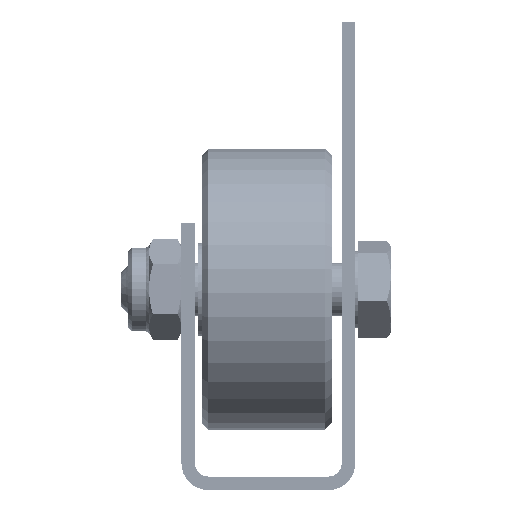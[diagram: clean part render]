
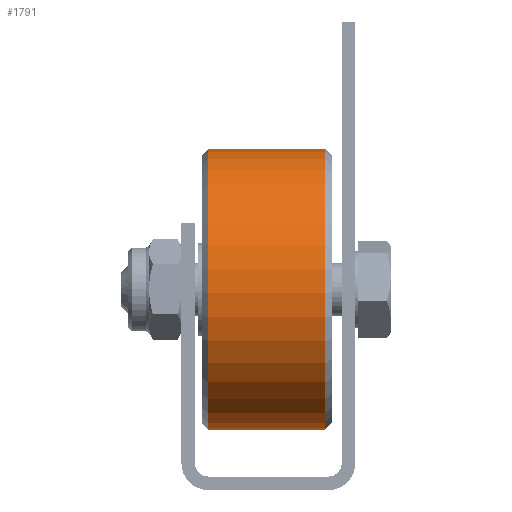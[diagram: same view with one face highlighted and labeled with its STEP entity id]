
A CAD part, front view. The second image highlights one B-rep face of the part: STEP entity #1791.
In plain terms, the highlighted cylindrical face has radius 21 mm (diameter 42 mm), a full revolution.
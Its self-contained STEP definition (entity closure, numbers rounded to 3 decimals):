
#1791 = ADVANCED_FACE( '', ( #3362, #3363 ), #3364, .T. );
#3362 = FACE_OUTER_BOUND( '', #5180, .T. );
#3363 = FACE_OUTER_BOUND( '', #5181, .T. );
#3364 = CYLINDRICAL_SURFACE( '', #5182, 21. );
#5180 = EDGE_LOOP( '', ( #7443 ) );
#5181 = EDGE_LOOP( '', ( #7444 ) );
#5182 = AXIS2_PLACEMENT_3D( '', #7445, #7446, #7447 );
#7443 = ORIENTED_EDGE( '', *, *, #10467, .T. );
#7444 = ORIENTED_EDGE( '', *, *, #9894, .T. );
#7445 = CARTESIAN_POINT( '', ( 0., -9.75, 0. ) );
#7446 = DIRECTION( '', ( 0., -1., 0. ) );
#7447 = DIRECTION( '', ( 0., 0., 1. ) );
#9894 = EDGE_CURVE( '', #11235, #11235, #11236, .T. );
#10467 = EDGE_CURVE( '', #12233, #12233, #12234, .F. );
#11235 = VERTEX_POINT( '', #13296 );
#11236 = CIRCLE( '', #13297, 21. );
#12233 = VERTEX_POINT( '', #14624 );
#12234 = CIRCLE( '', #14625, 21. );
#13296 = CARTESIAN_POINT( '', ( 0., -8.75, 21. ) );
#13297 = AXIS2_PLACEMENT_3D( '', #15996, #15997, #15998 );
#14624 = CARTESIAN_POINT( '', ( 0., 8.75, 21. ) );
#14625 = AXIS2_PLACEMENT_3D( '', #17003, #17004, #17005 );
#15996 = CARTESIAN_POINT( '', ( 0., -8.75, 0. ) );
#15997 = DIRECTION( '', ( 0., 1., 0. ) );
#15998 = DIRECTION( '', ( 0., 0., 1. ) );
#17003 = CARTESIAN_POINT( '', ( 0., 8.75, 0. ) );
#17004 = DIRECTION( '', ( 0., 1., 0. ) );
#17005 = DIRECTION( '', ( 0., 0., 1. ) );
